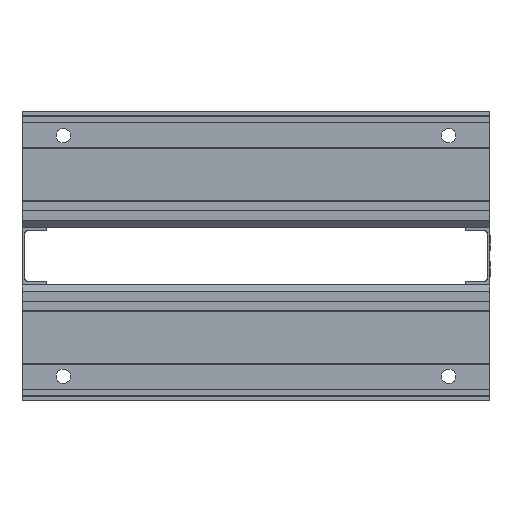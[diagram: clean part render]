
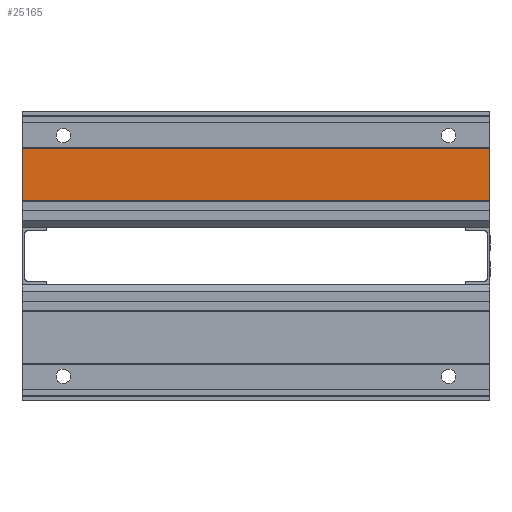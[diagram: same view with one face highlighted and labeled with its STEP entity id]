
A CAD part, front view. The second image highlights one B-rep face of the part: STEP entity #25165.
In plain terms, the highlighted planar face has unit normal (0, -1, 0).
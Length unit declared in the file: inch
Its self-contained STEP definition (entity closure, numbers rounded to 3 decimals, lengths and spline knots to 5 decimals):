
#663 = CARTESIAN_POINT ( 'NONE',  ( -12.125, 0.06, 4.069 ) ) ;
#664 = DIRECTION ( 'NONE',  ( 0., 0., -1. ) ) ;
#784 = CARTESIAN_POINT ( 'NONE',  ( 12.125, 0.06, 4.069 ) ) ;
#785 = DIRECTION ( 'NONE',  ( 0., 0., -1. ) ) ;
#792 = CARTESIAN_POINT ( 'NONE',  ( -12.125, 0.06, 4.069 ) ) ;
#793 = DIRECTION ( 'NONE',  ( 1., 0., 0. ) ) ;
#796 = CARTESIAN_POINT ( 'NONE',  ( -12.125, 0.06, 1.388 ) ) ;
#797 = DIRECTION ( 'NONE',  ( 1., 0., 0. ) ) ;
#5668 = EDGE_CURVE ( 'NONE', #10041, #10080, #21299, .T. ) ;
#5722 = EDGE_CURVE ( 'NONE', #9694, #9719, #21410, .T. ) ;
#5726 = EDGE_CURVE ( 'NONE', #10041, #9694, #21418, .T. ) ;
#5728 = EDGE_CURVE ( 'NONE', #10080, #9719, #21422, .T. ) ;
#7836 = AXIS2_PLACEMENT_3D ( 'NONE', #8725, #8735, #8736 ) ;
#8725 = CARTESIAN_POINT ( 'NONE',  ( -12.125, 0.06, 4.069 ) ) ;
#8730 = PLANE ( 'NONE',  #7836 ) ;
#8735 = DIRECTION ( 'NONE',  ( 0., -1., 0. ) ) ;
#8736 = DIRECTION ( 'NONE',  ( 0., 0., -1. ) ) ;
#9694 = VERTEX_POINT ( 'NONE', #13833 ) ;
#9719 = VERTEX_POINT ( 'NONE', #13847 ) ;
#10041 = VERTEX_POINT ( 'NONE', #13993 ) ;
#10080 = VERTEX_POINT ( 'NONE', #14009 ) ;
#13833 = CARTESIAN_POINT ( 'NONE',  ( 12.125, 0.06, 4.069 ) ) ;
#13847 = CARTESIAN_POINT ( 'NONE',  ( 12.125, 0.06, 1.388 ) ) ;
#13993 = CARTESIAN_POINT ( 'NONE',  ( -12.125, 0.06, 4.069 ) ) ;
#14009 = CARTESIAN_POINT ( 'NONE',  ( -12.125, 0.06, 1.388 ) ) ;
#14779 = FACE_OUTER_BOUND ( 'NONE', #16551, .T. ) ;
#15896 = ORIENTED_EDGE ( 'NONE', *, *, #5668, .T. ) ;
#15898 = ORIENTED_EDGE ( 'NONE', *, *, #5726, .F. ) ;
#15900 = ORIENTED_EDGE ( 'NONE', *, *, #5722, .F. ) ;
#15902 = ORIENTED_EDGE ( 'NONE', *, *, #5728, .T. ) ;
#16551 = EDGE_LOOP ( 'NONE', ( #15902, #15900, #15898, #15896 ) ) ;
#21299 = LINE ( 'NONE', #663, #21307 ) ;
#21307 = VECTOR ( 'NONE', #664, 39.37008 ) ;
#21410 = LINE ( 'NONE', #784, #21411 ) ;
#21411 = VECTOR ( 'NONE', #785, 39.37008 ) ;
#21418 = LINE ( 'NONE', #792, #21419 ) ;
#21419 = VECTOR ( 'NONE', #793, 39.37008 ) ;
#21422 = LINE ( 'NONE', #796, #21423 ) ;
#21423 = VECTOR ( 'NONE', #797, 39.37008 ) ;
#25165 = ADVANCED_FACE ( 'NONE', ( #14779 ), #8730, .T. ) ;
